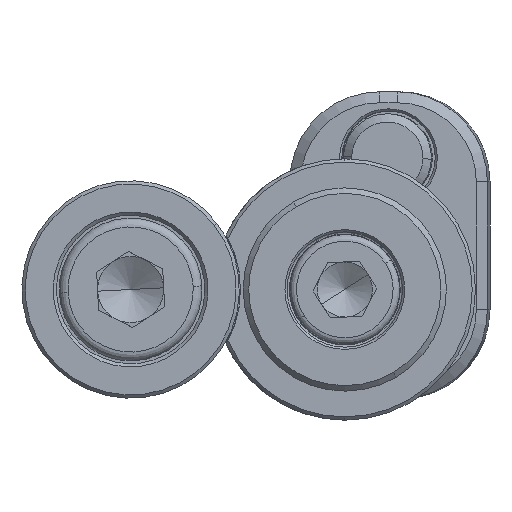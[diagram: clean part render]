
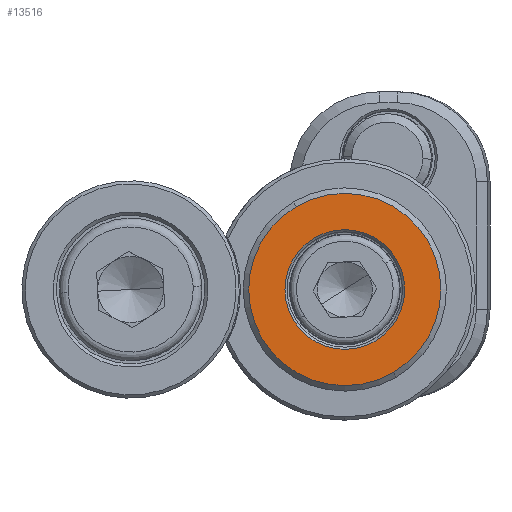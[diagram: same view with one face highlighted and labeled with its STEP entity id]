
A CAD part, front view. The second image highlights one B-rep face of the part: STEP entity #13516.
In plain terms, the highlighted planar face has unit normal (0, -1, 0).
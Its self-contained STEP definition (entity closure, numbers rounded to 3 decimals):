
#563 = ORIENTED_EDGE ( 'NONE', *, *, #13236, .T. ) ;
#1062 = ORIENTED_EDGE ( 'NONE', *, *, #13007, .T. ) ;
#1068 = CIRCLE ( 'NONE', #9150, 5.45 ) ;
#1160 = DIRECTION ( 'NONE',  ( -0.505, 0., 0.863 ) ) ;
#1635 = CARTESIAN_POINT ( 'NONE',  ( 0., -4., 0. ) ) ;
#2222 = FACE_OUTER_BOUND ( 'NONE', #4799, .T. ) ;
#3044 = VERTEX_POINT ( 'NONE', #5168 ) ;
#3182 = VERTEX_POINT ( 'NONE', #7759 ) ;
#3693 = CARTESIAN_POINT ( 'NONE',  ( 0., -4., 0. ) ) ;
#4447 = DIRECTION ( 'NONE',  ( 0., 1., 0. ) ) ;
#4600 = VERTEX_POINT ( 'NONE', #12931 ) ;
#4799 = EDGE_LOOP ( 'NONE', ( #563, #12620 ) ) ;
#5161 = DIRECTION ( 'NONE',  ( 0., 1., 0. ) ) ;
#5168 = CARTESIAN_POINT ( 'NONE',  ( 4.42, -4., -7.552 ) ) ;
#5399 = PLANE ( 'NONE',  #11920 ) ;
#5593 = CARTESIAN_POINT ( 'NONE',  ( -2.753, -4., 4.704 ) ) ;
#5604 = CIRCLE ( 'NONE', #6294, 8.75 ) ;
#6036 = CIRCLE ( 'NONE', #12767, 8.75 ) ;
#6047 = DIRECTION ( 'NONE',  ( -0.505, 0., 0.863 ) ) ;
#6241 = CARTESIAN_POINT ( 'NONE',  ( 0., -4., 0. ) ) ;
#6294 = AXIS2_PLACEMENT_3D ( 'NONE', #9679, #7555, #11942 ) ;
#6509 = CIRCLE ( 'NONE', #8370, 5.45 ) ;
#6754 = CARTESIAN_POINT ( 'NONE',  ( -4.531, -4., -2.652 ) ) ;
#7555 = DIRECTION ( 'NONE',  ( 0., -1., 0. ) ) ;
#7759 = CARTESIAN_POINT ( 'NONE',  ( 2.753, -4., -4.704 ) ) ;
#8370 = AXIS2_PLACEMENT_3D ( 'NONE', #3693, #9161, #10253 ) ;
#8419 = DIRECTION ( 'NONE',  ( -0.505, 0., 0.863 ) ) ;
#9150 = AXIS2_PLACEMENT_3D ( 'NONE', #6241, #5161, #8419 ) ;
#9161 = DIRECTION ( 'NONE',  ( 0., 1., 0. ) ) ;
#9679 = CARTESIAN_POINT ( 'NONE',  ( 0., -4., 0. ) ) ;
#9966 = EDGE_CURVE ( 'NONE', #3182, #11483, #1068, .T. ) ;
#10218 = DIRECTION ( 'NONE',  ( 0., -1., 0. ) ) ;
#10253 = DIRECTION ( 'NONE',  ( -0.505, 0., 0.863 ) ) ;
#11177 = EDGE_LOOP ( 'NONE', ( #13500, #1062 ) ) ;
#11483 = VERTEX_POINT ( 'NONE', #5593 ) ;
#11920 = AXIS2_PLACEMENT_3D ( 'NONE', #6754, #4447, #1160 ) ;
#11942 = DIRECTION ( 'NONE',  ( -0.505, 0., 0.863 ) ) ;
#12118 = FACE_BOUND ( 'NONE', #11177, .T. ) ;
#12379 = EDGE_CURVE ( 'NONE', #3044, #4600, #6036, .T. ) ;
#12620 = ORIENTED_EDGE ( 'NONE', *, *, #12379, .T. ) ;
#12767 = AXIS2_PLACEMENT_3D ( 'NONE', #1635, #10218, #6047 ) ;
#12931 = CARTESIAN_POINT ( 'NONE',  ( -4.42, -4., 7.552 ) ) ;
#13007 = EDGE_CURVE ( 'NONE', #11483, #3182, #6509, .T. ) ;
#13236 = EDGE_CURVE ( 'NONE', #4600, #3044, #5604, .T. ) ;
#13500 = ORIENTED_EDGE ( 'NONE', *, *, #9966, .T. ) ;
#13516 = ADVANCED_FACE ( 'NONE', ( #12118, #2222 ), #5399, .F. ) ;
